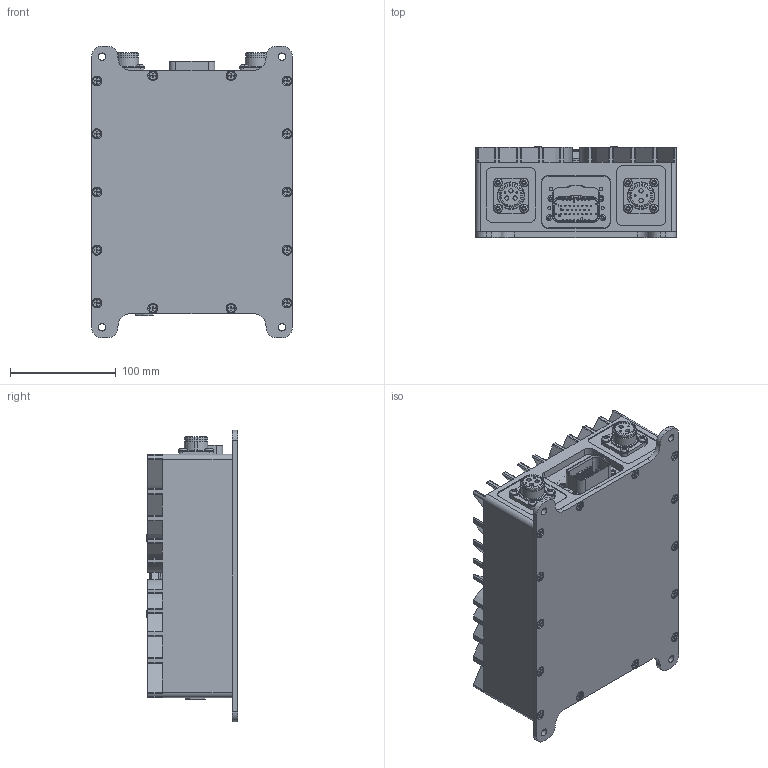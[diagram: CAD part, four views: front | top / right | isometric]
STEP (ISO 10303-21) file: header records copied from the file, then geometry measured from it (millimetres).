
FILE_DESCRIPTION (( 'STEP AP214' ), '1' );
FILE_NAME ('软忮痱铕 RUBRUKS EXTPI-600-25 Amphenol HVG1S.STEP', '2025-07-14T18:22:05', ( '' ), ( '' ), 'SwSTEP 2.0', 'SolidWorks 2020', '' );
FILE_SCHEMA (( 'AUTOMOTIVE_DESIGN' ));
Length unit declared in the file: millimetre
Products named in the file (16): Ðåøåòêà äëÿ âåíòèëÿòîðà 80õ80ìì FG-80 M (SM7240C); ÑÌÃÐ_ÈÒ010_00_03_00_00_Ïëàòà_óïðàâëåíèÿ 2.1; 软忮痱铕 RUBRUKS EXTPI-600-25 Amphenol HVG1S; HVLP Êðûøêà ñ óøêàìè; 冓踖樦 HVG1S-402FCX-XX; Êëàïàí SOMVPB01HL (Ì12õ1.5, PA6, ÷åðí., l=10, 150 ë÷); Âèíò ïîòàéíîé DIN 965 À2_Œ4å12; 冓踖樦 HVG1S-403FCX-XX; Âèíò ñ ãîë. Torx  ISO 14583_M3 - L10; Âåíòèëÿòîð 80x80x10, 12Â, 0.35À, âûâîäû 4L, ïîäøèï êà÷, T128010SU; Çàãëóøêà ðàçúåìà 2.1; Âèíò ñ ãîë. Torx  ISO 14583_M4 - L12; Êëàïàí SOMVPB01HL (Ì12õ1.5, PA6, ÷åðí., l=10, 150 ë÷)_s=3; c-1-776087-1-l-3d; ﾋ頸鵫 硴鶴 2.1; X1
Assembly tree (42 placements, depth 4):
  软忮痱铕 RUBRUKS EXTPI-600-25 Amphenol HVG1S
    ﾋ頸鵫 硴鶴 2.1
    Êëàïàí SOMVPB01HL (Ì12õ1.5, PA6, ÷åðí., l=10, 150 ë÷)_s=3
      Êëàïàí SOMVPB01HL (Ì12õ1.5, PA6, ÷åðí., l=10, 150 ë÷)
    HVLP Êðûøêà ñ óøêàìè
    Âåíòèëÿòîð 80x80x10, 12Â, 0.35À, âûâîäû 4L, ïîäøèï êà÷, T128010SU
    Ðåøåòêà äëÿ âåíòèëÿòîðà 80õ80ìì FG-80 M (SM7240C)
    ÑÌÃÐ_ÈÒ010_00_03_00_00_Ïëàòà_óïðàâëåíèÿ 2.1
      X1
        c-1-776087-1-l-3d
    Çàãëóøêà ðàçúåìà 2.1
    冓踖樦 HVG1S-402FCX-XX
    冓踖樦 HVG1S-403FCX-XX
    Âèíò ñ ãîë. Torx  ISO 14583_M4 - L12  x12
    Âèíò ñ ãîë. Torx  ISO 14583_M3 - L10  x4
    Âèíò ïîòàéíîé DIN 965 À2_Œ4å12  x14
Bounding box: 190 x 86.08 x 276 mm (x, y, z)
Volume: 1388649.2 mm3; surface area: 409907.9 mm2
Topology: 40 solids, 40 shells, 3096 faces, 7990 edges, 5076 vertices
Faces by surface type: cylinder 1356, plane 1047, cone 330, bspline 271, torus 64, sphere 28
Entity records: 84398 total; most frequent: CARTESIAN_POINT 17160, ORIENTED_EDGE 12392, DIRECTION 12019, EDGE_CURVE 6196, AXIS2_PLACEMENT_3D 4393, VERTEX_POINT 4044, LINE 3233, VECTOR 3233
